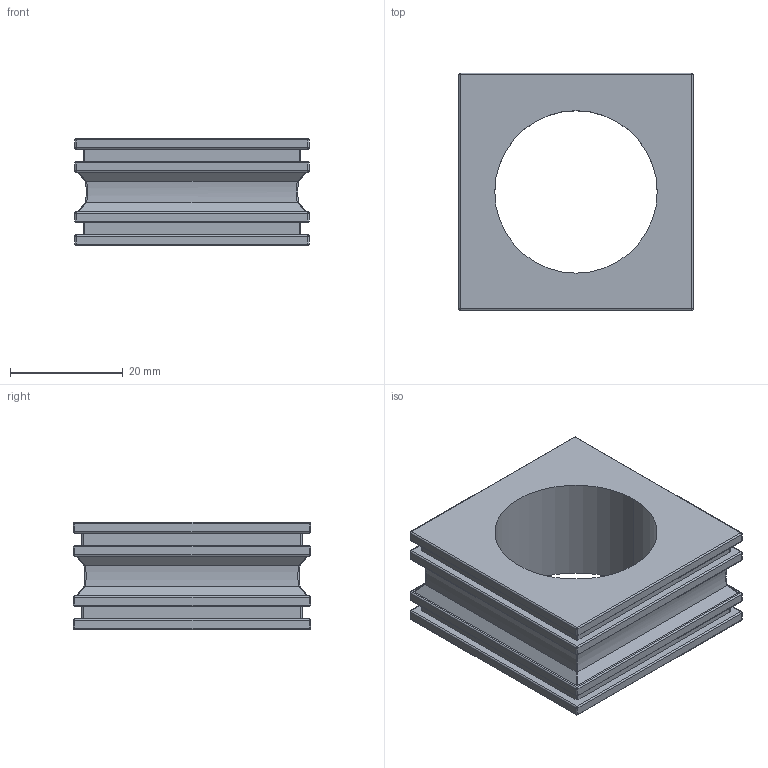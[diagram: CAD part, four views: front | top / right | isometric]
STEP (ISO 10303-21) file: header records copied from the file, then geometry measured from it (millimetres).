
FILE_DESCRIPTION (( 'STEP AP203' ), '1' );
FILE_NAME ('041229 KT29.STEP', '2023-03-07T06:43:35', ( '' ), ( '' ), 'SwSTEP 2.0', 'SolidWorks 2016', '' );
FILE_SCHEMA (( 'CONFIG_CONTROL_DESIGN' ));
Length unit declared in the file: millimetre
Products named in the file (1): 041229 KT29
Bounding box: 41.5 x 42 x 19 mm (x, y, z)
Volume: 17861.1 mm3; surface area: 8087.3 mm2
Topology: 1 solids, 1 shells, 195 faces, 480 edges, 266 vertices
Faces by surface type: plane 78, cylinder 71, bspline 46
Entity records: 6879 total; most frequent: CARTESIAN_POINT 2660, ORIENTED_EDGE 896, DIRECTION 798, EDGE_CURVE 448, AXIS2_PLACEMENT_3D 268, VERTEX_POINT 266, LINE 262, VECTOR 262
